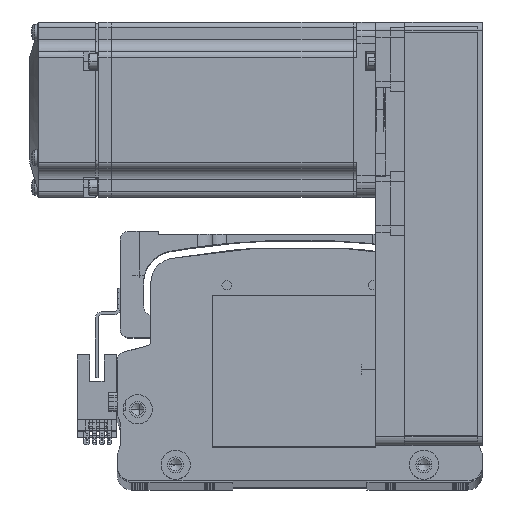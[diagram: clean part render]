
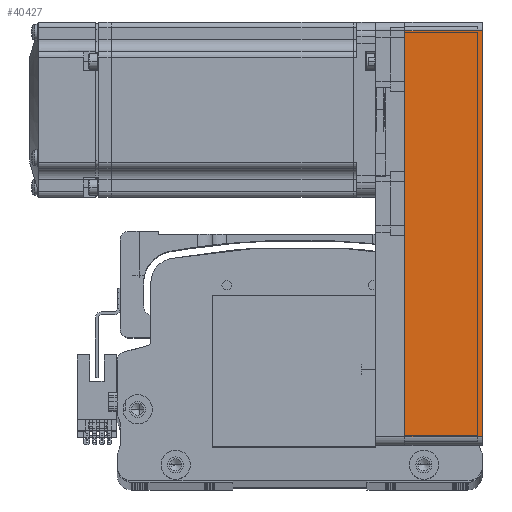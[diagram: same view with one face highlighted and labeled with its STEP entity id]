
A CAD part, top view. The second image highlights one B-rep face of the part: STEP entity #40427.
In plain terms, the highlighted planar face has unit normal (0, 0, 1) as drawn and (0, 1, 0) by its records, which use the part's own axes.
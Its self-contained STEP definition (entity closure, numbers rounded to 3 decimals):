
#467 = CARTESIAN_POINT ( 'NONE',  ( 69.5, 30., 26.5 ) ) ;
#2565 = DIRECTION ( 'NONE',  ( -1., 0., 0. ) ) ;
#8272 = EDGE_CURVE ( 'NONE', #15019, #19790, #20699, .T. ) ;
#11540 = EDGE_LOOP ( 'NONE', ( #32239, #87106, #67820, #62830 ) ) ;
#15019 = VERTEX_POINT ( 'NONE', #467 ) ;
#17402 = LINE ( 'NONE', #83137, #84744 ) ;
#19790 = VERTEX_POINT ( 'NONE', #78372 ) ;
#20271 = VERTEX_POINT ( 'NONE', #52417 ) ;
#20699 = LINE ( 'NONE', #22450, #22816 ) ;
#21560 = DIRECTION ( 'NONE',  ( 0., -1., 0. ) ) ;
#21652 = DIRECTION ( 'NONE',  ( -1., 0., 0. ) ) ;
#22450 = CARTESIAN_POINT ( 'NONE',  ( 69.5, 30., 26.5 ) ) ;
#22816 = VECTOR ( 'NONE', #42538, 1000. ) ;
#27267 = FACE_OUTER_BOUND ( 'NONE', #11540, .T. ) ;
#31079 = EDGE_CURVE ( 'NONE', #15019, #20271, #17402, .T. ) ;
#32239 = ORIENTED_EDGE ( 'NONE', *, *, #41451, .T. ) ;
#34522 = PLANE ( 'NONE',  #42755 ) ;
#40427 = ADVANCED_FACE ( 'NONE', ( #27267 ), #34522, .F. ) ;
#41451 = EDGE_CURVE ( 'NONE', #19790, #58166, #60622, .T. ) ;
#42538 = DIRECTION ( 'NONE',  ( 0., 0., -1. ) ) ;
#42755 = AXIS2_PLACEMENT_3D ( 'NONE', #61778, #21560, #68627 ) ;
#42855 = VECTOR ( 'NONE', #21652, 1000. ) ;
#47810 = LINE ( 'NONE', #82555, #81449 ) ;
#52417 = CARTESIAN_POINT ( 'NONE',  ( -69.5, 30., 26.5 ) ) ;
#54845 = CARTESIAN_POINT ( 'NONE',  ( 72.5, 30., 0. ) ) ;
#58166 = VERTEX_POINT ( 'NONE', #58548 ) ;
#58548 = CARTESIAN_POINT ( 'NONE',  ( -69.5, 30., 0. ) ) ;
#60622 = LINE ( 'NONE', #54845, #42855 ) ;
#61778 = CARTESIAN_POINT ( 'NONE',  ( 72.5, 30., 26.5 ) ) ;
#62830 = ORIENTED_EDGE ( 'NONE', *, *, #8272, .T. ) ;
#67820 = ORIENTED_EDGE ( 'NONE', *, *, #31079, .F. ) ;
#68627 = DIRECTION ( 'NONE',  ( 1., 0., 0. ) ) ;
#69037 = DIRECTION ( 'NONE',  ( 0., 0., 1. ) ) ;
#77679 = EDGE_CURVE ( 'NONE', #58166, #20271, #47810, .T. ) ;
#78372 = CARTESIAN_POINT ( 'NONE',  ( 69.5, 30., 0. ) ) ;
#81449 = VECTOR ( 'NONE', #69037, 1000. ) ;
#82555 = CARTESIAN_POINT ( 'NONE',  ( -69.5, 30., 26.5 ) ) ;
#83137 = CARTESIAN_POINT ( 'NONE',  ( 72.5, 30., 26.5 ) ) ;
#84744 = VECTOR ( 'NONE', #2565, 1000. ) ;
#87106 = ORIENTED_EDGE ( 'NONE', *, *, #77679, .T. ) ;
